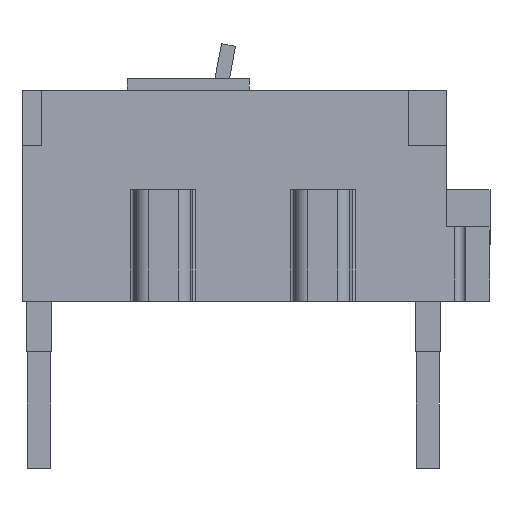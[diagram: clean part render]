
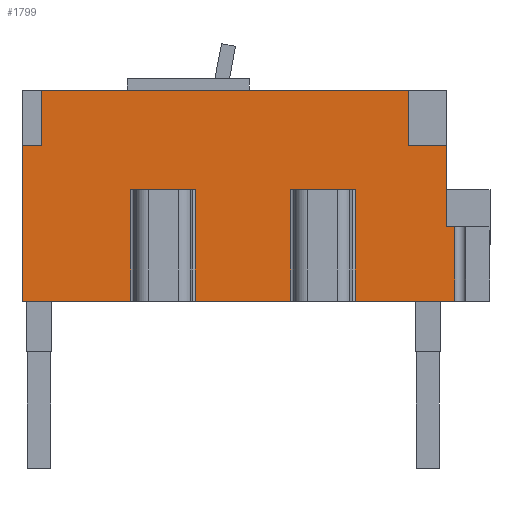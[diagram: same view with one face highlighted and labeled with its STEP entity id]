
A CAD part, left-side view. The second image highlights one B-rep face of the part: STEP entity #1799.
In plain terms, the highlighted planar face has unit normal (-1, 0, 0).
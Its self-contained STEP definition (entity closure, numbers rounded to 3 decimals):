
#22 = LINE ( 'NONE', #2185, #4438 ) ;
#41 = VERTEX_POINT ( 'NONE', #5994 ) ;
#152 = DIRECTION ( 'NONE',  ( 0., 1., 0. ) ) ;
#472 = LINE ( 'NONE', #2775, #3173 ) ;
#509 = FACE_OUTER_BOUND ( 'NONE', #5943, .T. ) ;
#529 = CARTESIAN_POINT ( 'NONE',  ( -225., 0., 0. ) ) ;
#547 = EDGE_CURVE ( 'NONE', #2564, #1486, #22, .T. ) ;
#583 = EDGE_CURVE ( 'NONE', #1727, #1554, #472, .T. ) ;
#715 = EDGE_CURVE ( 'NONE', #4931, #41, #5990, .T. ) ;
#769 = ORIENTED_EDGE ( 'NONE', *, *, #5009, .T. ) ;
#1046 = CARTESIAN_POINT ( 'NONE',  ( -225., 361., 120.35 ) ) ;
#1073 = ORIENTED_EDGE ( 'NONE', *, *, #3632, .F. ) ;
#1122 = CARTESIAN_POINT ( 'NONE',  ( -225., 0., 0. ) ) ;
#1132 = ORIENTED_EDGE ( 'NONE', *, *, #5665, .F. ) ;
#1142 = CARTESIAN_POINT ( 'NONE',  ( -225., 346.2, 120.35 ) ) ;
#1180 = VECTOR ( 'NONE', #2144, 1000. ) ;
#1188 = LINE ( 'NONE', #1583, #1180 ) ;
#1191 = VERTEX_POINT ( 'NONE', #3233 ) ;
#1375 = ORIENTED_EDGE ( 'NONE', *, *, #2538, .F. ) ;
#1486 = VERTEX_POINT ( 'NONE', #4896 ) ;
#1554 = VERTEX_POINT ( 'NONE', #3892 ) ;
#1583 = CARTESIAN_POINT ( 'NONE',  ( -225., 33.542, 120.35 ) ) ;
#1727 = VERTEX_POINT ( 'NONE', #2794 ) ;
#1784 = VECTOR ( 'NONE', #5640, 1000. ) ;
#1790 = LINE ( 'NONE', #2994, #1784 ) ;
#1799 = ADVANCED_FACE ( 'NONE', ( #509 ), #3934, .F. ) ;
#2144 = DIRECTION ( 'NONE',  ( 0., -1., 0. ) ) ;
#2185 = CARTESIAN_POINT ( 'NONE',  ( -225., 33.542, 162.85 ) ) ;
#2294 = AXIS2_PLACEMENT_3D ( 'NONE', #529, #5278, #4828 ) ;
#2301 = VECTOR ( 'NONE', #3306, 1000. ) ;
#2308 = LINE ( 'NONE', #4690, #2301 ) ;
#2356 = ORIENTED_EDGE ( 'NONE', *, *, #4128, .F. ) ;
#2522 = VECTOR ( 'NONE', #4981, 1000. ) ;
#2538 = EDGE_CURVE ( 'NONE', #2712, #4931, #3672, .T. ) ;
#2562 = LINE ( 'NONE', #4785, #2522 ) ;
#2564 = VERTEX_POINT ( 'NONE', #5919 ) ;
#2668 = ORIENTED_EDGE ( 'NONE', *, *, #547, .F. ) ;
#2712 = VERTEX_POINT ( 'NONE', #3637 ) ;
#2775 = CARTESIAN_POINT ( 'NONE',  ( -225., 27.25, 70.959 ) ) ;
#2794 = CARTESIAN_POINT ( 'NONE',  ( -225., 27.25, 57.45 ) ) ;
#2872 = ORIENTED_EDGE ( 'NONE', *, *, #715, .F. ) ;
#2904 = ORIENTED_EDGE ( 'NONE', *, *, #4385, .F. ) ;
#2913 = VECTOR ( 'NONE', #152, 1000. ) ;
#2959 = DIRECTION ( 'NONE',  ( 0., 0., 1. ) ) ;
#2970 = LINE ( 'NONE', #1122, #2913 ) ;
#2988 = ORIENTED_EDGE ( 'NONE', *, *, #583, .F. ) ;
#2994 = CARTESIAN_POINT ( 'NONE',  ( -225., 63.042, 120.35 ) ) ;
#3098 = EDGE_CURVE ( 'NONE', #3577, #2712, #3330, .T. ) ;
#3173 = VECTOR ( 'NONE', #3701, 1000. ) ;
#3233 = CARTESIAN_POINT ( 'NONE',  ( -225., 361., 0. ) ) ;
#3299 = VECTOR ( 'NONE', #4649, 1000. ) ;
#3306 = DIRECTION ( 'NONE',  ( 0., -1., 0. ) ) ;
#3330 = LINE ( 'NONE', #3769, #3299 ) ;
#3577 = VERTEX_POINT ( 'NONE', #1046 ) ;
#3627 = VECTOR ( 'NONE', #2959, 1000. ) ;
#3632 = EDGE_CURVE ( 'NONE', #1554, #1191, #2970, .T. ) ;
#3637 = CARTESIAN_POINT ( 'NONE',  ( -225., 346.2, 120.35 ) ) ;
#3672 = LINE ( 'NONE', #1142, #3627 ) ;
#3701 = DIRECTION ( 'NONE',  ( 0., 0., -1. ) ) ;
#3769 = CARTESIAN_POINT ( 'NONE',  ( -225., 361., 120.35 ) ) ;
#3864 = CARTESIAN_POINT ( 'NONE',  ( -225., 361., 162.85 ) ) ;
#3892 = CARTESIAN_POINT ( 'NONE',  ( -225., 27.25, 0. ) ) ;
#3934 = PLANE ( 'NONE',  #2294 ) ;
#4094 = VERTEX_POINT ( 'NONE', #5235 ) ;
#4128 = EDGE_CURVE ( 'NONE', #1191, #3577, #2562, .T. ) ;
#4385 = EDGE_CURVE ( 'NONE', #1486, #1727, #2308, .T. ) ;
#4438 = VECTOR ( 'NONE', #4540, 1000. ) ;
#4540 = DIRECTION ( 'NONE',  ( 0., 0.001, -1. ) ) ;
#4649 = DIRECTION ( 'NONE',  ( 0., -1., 0. ) ) ;
#4690 = CARTESIAN_POINT ( 'NONE',  ( -225., 33.677, 57.45 ) ) ;
#4692 = CARTESIAN_POINT ( 'NONE',  ( -225., 346.2, 162.85 ) ) ;
#4785 = CARTESIAN_POINT ( 'NONE',  ( -225., 361., 0. ) ) ;
#4828 = DIRECTION ( 'NONE',  ( 0., 0., -1. ) ) ;
#4896 = CARTESIAN_POINT ( 'NONE',  ( -225., 33.677, 57.45 ) ) ;
#4931 = VERTEX_POINT ( 'NONE', #4692 ) ;
#4981 = DIRECTION ( 'NONE',  ( 0., 0., 1. ) ) ;
#5009 = EDGE_CURVE ( 'NONE', #4094, #41, #1790, .T. ) ;
#5235 = CARTESIAN_POINT ( 'NONE',  ( -225., 63.042, 120.35 ) ) ;
#5278 = DIRECTION ( 'NONE',  ( 1., 0., 0. ) ) ;
#5302 = DIRECTION ( 'NONE',  ( 0., -1., 0. ) ) ;
#5640 = DIRECTION ( 'NONE',  ( 0., 0., 1. ) ) ;
#5665 = EDGE_CURVE ( 'NONE', #4094, #2564, #1188, .T. ) ;
#5919 = CARTESIAN_POINT ( 'NONE',  ( -225., 33.596, 120.35 ) ) ;
#5943 = EDGE_LOOP ( 'NONE', ( #1073, #2988, #2904, #2668, #1132, #769, #2872, #1375, #6018, #2356 ) ) ;
#5961 = VECTOR ( 'NONE', #5302, 1000. ) ;
#5990 = LINE ( 'NONE', #3864, #5961 ) ;
#5994 = CARTESIAN_POINT ( 'NONE',  ( -225., 63.042, 162.85 ) ) ;
#6018 = ORIENTED_EDGE ( 'NONE', *, *, #3098, .F. ) ;
